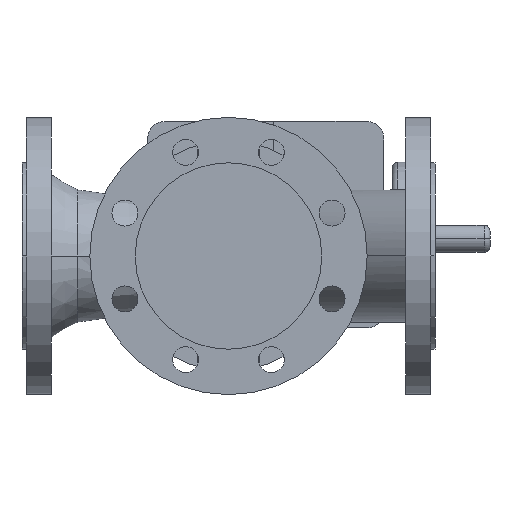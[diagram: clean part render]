
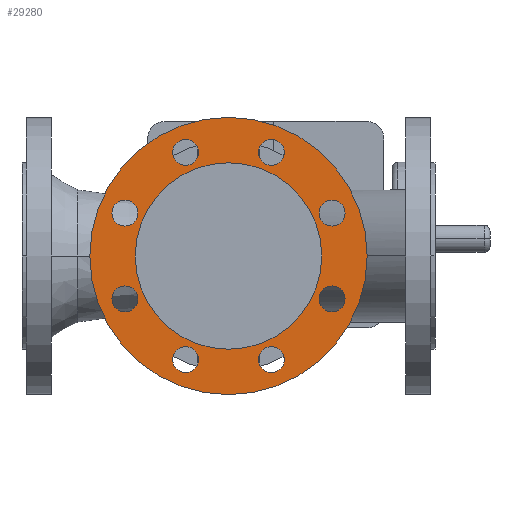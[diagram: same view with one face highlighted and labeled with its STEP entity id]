
A CAD part, front view. The second image highlights one B-rep face of the part: STEP entity #29280.
In plain terms, the highlighted planar face has unit normal (0, -1, 0).
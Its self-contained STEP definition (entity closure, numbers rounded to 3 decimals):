
#2990=CARTESIAN_POINT('',(254.,-146.5,0.));
#3000=VERTEX_POINT('',#2990);
#3180=CARTESIAN_POINT('',(96.,-146.5,0.));
#3190=VERTEX_POINT('',#3180);
#3220=CARTESIAN_POINT('',(175.,-146.5,0.));
#3230=DIRECTION('',(0.,-1.,0.));
#3240=DIRECTION('',(1.,0.,0.));
#3250=AXIS2_PLACEMENT_3D('',#3220,#3230,#3240);
#3260=CIRCLE('',#3250,79.);
#3270=EDGE_CURVE('',#3000,#3190,#3260,.T.);
#10290=CARTESIAN_POINT('',(57.5,-146.5,0.));
#10300=VERTEX_POINT('',#10290);
#10330=CARTESIAN_POINT('',(175.,-146.5,0.));
#10340=DIRECTION('',(0.,1.,0.));
#10350=DIRECTION('',(1.,0.,0.));
#10360=AXIS2_PLACEMENT_3D('',#10330,#10340,#10350);
#10370=CIRCLE('',#10360,117.5);
#10380=CARTESIAN_POINT('',(292.5,-146.5,0.));
#10390=VERTEX_POINT('',#10380);
#10400=EDGE_CURVE('',#10390,#10300,#10370,.T.);
#10710=CARTESIAN_POINT('',(251.769,-146.5,-36.355));
#10720=VERTEX_POINT('',#10710);
#10750=CARTESIAN_POINT('',(262.769,-146.5,-36.355));
#10760=DIRECTION('',(0.,1.,0.));
#10770=DIRECTION('',(1.,0.,0.));
#10780=AXIS2_PLACEMENT_3D('',#10750,#10760,#10770);
#10790=CIRCLE('',#10780,11.);
#10800=CARTESIAN_POINT('',(273.769,-146.5,-36.355));
#10810=VERTEX_POINT('',#10800);
#10820=EDGE_CURVE('',#10720,#10810,#10790,.T.);
#11130=CARTESIAN_POINT('',(251.769,-146.5,36.355));
#11140=VERTEX_POINT('',#11130);
#11300=CARTESIAN_POINT('',(273.769,-146.5,36.355));
#11310=VERTEX_POINT('',#11300);
#11340=CARTESIAN_POINT('',(262.769,-146.5,36.355));
#11350=DIRECTION('',(0.,1.,0.));
#11360=DIRECTION('',(1.,0.,0.));
#11370=AXIS2_PLACEMENT_3D('',#11340,#11350,#11360);
#11380=CIRCLE('',#11370,11.);
#11390=EDGE_CURVE('',#11310,#11140,#11380,.T.);
#11550=CARTESIAN_POINT('',(200.355,-146.5,-87.769));
#11560=VERTEX_POINT('',#11550);
#11720=CARTESIAN_POINT('',(222.355,-146.5,-87.769));
#11730=VERTEX_POINT('',#11720);
#11760=CARTESIAN_POINT('',(211.355,-146.5,-87.769));
#11770=DIRECTION('',(0.,1.,0.));
#11780=DIRECTION('',(1.,0.,0.));
#11790=AXIS2_PLACEMENT_3D('',#11760,#11770,#11780);
#11800=CIRCLE('',#11790,11.);
#11810=EDGE_CURVE('',#11730,#11560,#11800,.T.);
#11970=CARTESIAN_POINT('',(222.355,-146.5,87.769));
#11980=VERTEX_POINT('',#11970);
#12140=CARTESIAN_POINT('',(200.355,-146.5,87.769));
#12150=VERTEX_POINT('',#12140);
#12180=CARTESIAN_POINT('',(211.355,-146.5,87.769));
#12190=DIRECTION('',(0.,1.,0.));
#12200=DIRECTION('',(1.,0.,0.));
#12210=AXIS2_PLACEMENT_3D('',#12180,#12190,#12200);
#12220=CIRCLE('',#12210,11.);
#12230=EDGE_CURVE('',#12150,#11980,#12220,.T.);
#12390=CARTESIAN_POINT('',(127.645,-146.5,-87.769));
#12400=VERTEX_POINT('',#12390);
#12560=CARTESIAN_POINT('',(149.645,-146.5,-87.769));
#12570=VERTEX_POINT('',#12560);
#12600=CARTESIAN_POINT('',(138.645,-146.5,-87.769));
#12610=DIRECTION('',(0.,1.,0.));
#12620=DIRECTION('',(1.,0.,0.));
#12630=AXIS2_PLACEMENT_3D('',#12600,#12610,#12620);
#12640=CIRCLE('',#12630,11.);
#12650=EDGE_CURVE('',#12570,#12400,#12640,.T.);
#12810=CARTESIAN_POINT('',(149.645,-146.5,87.769));
#12820=VERTEX_POINT('',#12810);
#12850=CARTESIAN_POINT('',(138.645,-146.5,87.769));
#12860=DIRECTION('',(0.,1.,0.));
#12870=DIRECTION('',(1.,0.,0.));
#12880=AXIS2_PLACEMENT_3D('',#12850,#12860,#12870);
#12890=CIRCLE('',#12880,11.);
#12900=CARTESIAN_POINT('',(127.645,-146.5,87.769));
#12910=VERTEX_POINT('',#12900);
#12920=EDGE_CURVE('',#12820,#12910,#12890,.T.);
#13230=CARTESIAN_POINT('',(76.231,-146.5,-36.355));
#13240=VERTEX_POINT('',#13230);
#13400=CARTESIAN_POINT('',(98.231,-146.5,-36.355));
#13410=VERTEX_POINT('',#13400);
#13440=CARTESIAN_POINT('',(87.231,-146.5,-36.355));
#13450=DIRECTION('',(0.,1.,0.));
#13460=DIRECTION('',(1.,0.,0.));
#13470=AXIS2_PLACEMENT_3D('',#13440,#13450,#13460);
#13480=CIRCLE('',#13470,11.);
#13490=EDGE_CURVE('',#13410,#13240,#13480,.T.);
#13650=CARTESIAN_POINT('',(76.231,-146.5,36.355));
#13660=VERTEX_POINT('',#13650);
#13820=CARTESIAN_POINT('',(98.231,-146.5,36.355));
#13830=VERTEX_POINT('',#13820);
#13860=CARTESIAN_POINT('',(87.231,-146.5,36.355));
#13870=DIRECTION('',(0.,1.,0.));
#13880=DIRECTION('',(1.,0.,0.));
#13890=AXIS2_PLACEMENT_3D('',#13860,#13870,#13880);
#13900=CIRCLE('',#13890,11.);
#13910=EDGE_CURVE('',#13830,#13660,#13900,.T.);
#28730=CARTESIAN_POINT('',(175.,-146.5,0.));
#28740=DIRECTION('',(0.,1.,0.));
#28750=DIRECTION('',(0.,0.,1.));
#28760=AXIS2_PLACEMENT_3D('',#28730,#28740,#28750);
#28770=PLANE('',#28760);
#28780=EDGE_CURVE('',#13660,#13830,#13900,.T.);
#28790=ORIENTED_EDGE('',*,*,#28780,.T.);
#28800=ORIENTED_EDGE('',*,*,#13910,.T.);
#28810=EDGE_LOOP('',(#28800,#28790));
#28820=FACE_BOUND('',#28810,.T.);
#28830=EDGE_CURVE('',#13240,#13410,#13480,.T.);
#28840=ORIENTED_EDGE('',*,*,#28830,.T.);
#28850=ORIENTED_EDGE('',*,*,#13490,.T.);
#28860=EDGE_LOOP('',(#28850,#28840));
#28870=FACE_BOUND('',#28860,.T.);
#28880=ORIENTED_EDGE('',*,*,#12920,.T.);
#28890=EDGE_CURVE('',#12910,#12820,#12890,.T.);
#28900=ORIENTED_EDGE('',*,*,#28890,.T.);
#28910=EDGE_LOOP('',(#28900,#28880));
#28920=FACE_BOUND('',#28910,.T.);
#28930=EDGE_CURVE('',#12400,#12570,#12640,.T.);
#28940=ORIENTED_EDGE('',*,*,#28930,.T.);
#28950=ORIENTED_EDGE('',*,*,#12650,.T.);
#28960=EDGE_LOOP('',(#28950,#28940));
#28970=FACE_BOUND('',#28960,.T.);
#28980=EDGE_CURVE('',#11980,#12150,#12220,.T.);
#28990=ORIENTED_EDGE('',*,*,#28980,.T.);
#29000=ORIENTED_EDGE('',*,*,#12230,.T.);
#29010=EDGE_LOOP('',(#29000,#28990));
#29020=FACE_BOUND('',#29010,.T.);
#29030=EDGE_CURVE('',#11560,#11730,#11800,.T.);
#29040=ORIENTED_EDGE('',*,*,#29030,.T.);
#29050=ORIENTED_EDGE('',*,*,#11810,.T.);
#29060=EDGE_LOOP('',(#29050,#29040));
#29070=FACE_BOUND('',#29060,.T.);
#29080=EDGE_CURVE('',#11140,#11310,#11380,.T.);
#29090=ORIENTED_EDGE('',*,*,#29080,.T.);
#29100=ORIENTED_EDGE('',*,*,#11390,.T.);
#29110=EDGE_LOOP('',(#29100,#29090));
#29120=FACE_BOUND('',#29110,.T.);
#29130=ORIENTED_EDGE('',*,*,#10820,.T.);
#29140=EDGE_CURVE('',#10810,#10720,#10790,.T.);
#29150=ORIENTED_EDGE('',*,*,#29140,.T.);
#29160=EDGE_LOOP('',(#29150,#29130));
#29170=FACE_BOUND('',#29160,.T.);
#29180=EDGE_CURVE('',#10300,#10390,#10370,.T.);
#29190=ORIENTED_EDGE('',*,*,#29180,.F.);
#29200=ORIENTED_EDGE('',*,*,#10400,.F.);
#29210=EDGE_LOOP('',(#29200,#29190));
#29220=FACE_OUTER_BOUND('',#29210,.T.);
#29230=EDGE_CURVE('',#3190,#3000,#3260,.T.);
#29240=ORIENTED_EDGE('',*,*,#29230,.F.);
#29250=ORIENTED_EDGE('',*,*,#3270,.F.);
#29260=EDGE_LOOP('',(#29250,#29240));
#29270=FACE_BOUND('',#29260,.T.);
#29280=ADVANCED_FACE('',(#28820,#28870,#28920,#28970,#29020,#29070,
#29120,#29170,#29220,#29270),#28770,.F.);
